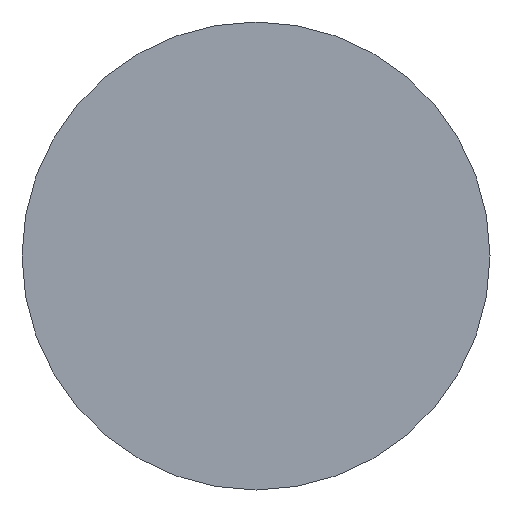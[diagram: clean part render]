
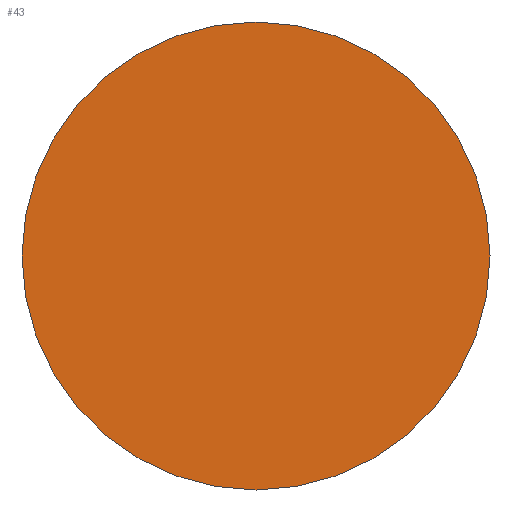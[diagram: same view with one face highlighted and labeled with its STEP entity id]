
A CAD part, front view. The second image highlights one B-rep face of the part: STEP entity #43.
In plain terms, the highlighted planar face has unit normal (0, -1, 0).
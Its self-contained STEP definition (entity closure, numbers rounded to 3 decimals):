
#43 = ADVANCED_FACE( '', ( #88 ), #89, .F. );
#88 = FACE_OUTER_BOUND( '', #129, .T. );
#89 = PLANE( '', #130 );
#129 = EDGE_LOOP( '', ( #174 ) );
#130 = AXIS2_PLACEMENT_3D( '', #175, #176, #177 );
#174 = ORIENTED_EDGE( '', *, *, #203, .F. );
#175 = CARTESIAN_POINT( '', ( 0., -30., 0. ) );
#176 = DIRECTION( '', ( 0., 1., 0. ) );
#177 = DIRECTION( '', ( 0., 0., 1. ) );
#203 = EDGE_CURVE( '', #225, #225, #226, .T. );
#225 = VERTEX_POINT( '', #250 );
#226 = CIRCLE( '', #251, 30. );
#250 = CARTESIAN_POINT( '', ( 0., -30., 30. ) );
#251 = AXIS2_PLACEMENT_3D( '', #277, #278, #279 );
#277 = CARTESIAN_POINT( '', ( 0., -30., 0. ) );
#278 = DIRECTION( '', ( 0., 1., 0. ) );
#279 = DIRECTION( '', ( 0., 0., 1. ) );
